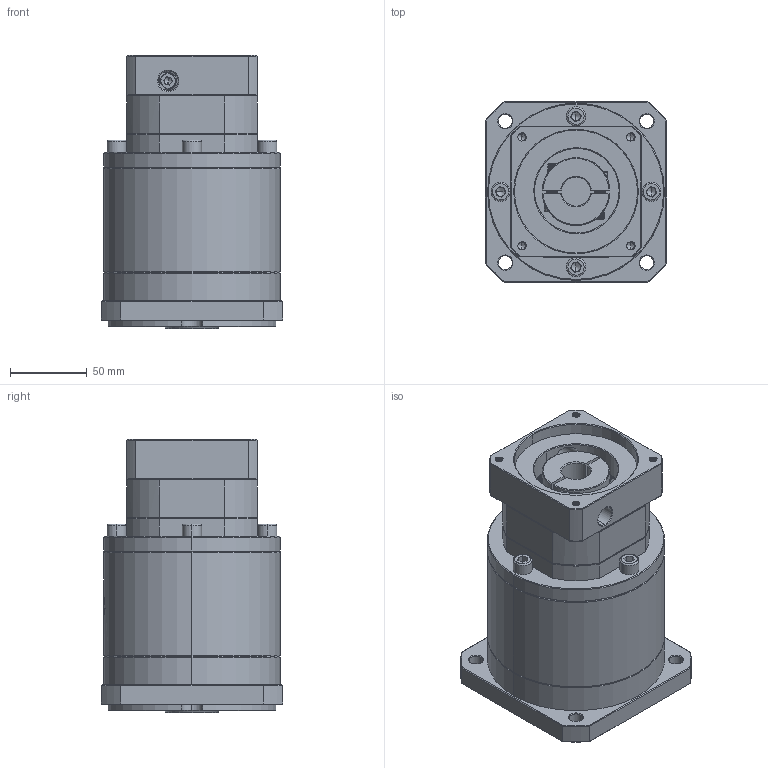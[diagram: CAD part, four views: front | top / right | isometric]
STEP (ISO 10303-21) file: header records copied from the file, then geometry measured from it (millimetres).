
FILE_DESCRIPTION (( 'STEP AP214' ), '1' );
FILE_NAME ('ZF120A-K25-L3-P2-19-80-100-M6.step', '2023-08-27T06:03:30', ( '' ), ( '' ), 'SwSTEP 2.0', 'SolidWorks 2016', '' );
FILE_SCHEMA (( 'AUTOMOTIVE_DESIGN' ));
Length unit declared in the file: millimetre
Products named in the file (1): ZF120A-K25-L3-P2-19-80-100-M6
Bounding box: 118 x 118 x 177.5 mm (x, y, z)
Volume: 1517644.5 mm3; surface area: 136045.6 mm2
Topology: 5 solids, 6 shells, 2156 faces, 5736 edges, 3679 vertices
Faces by surface type: plane 1057, bspline 410, cylinder 369, cone 305, torus 15
Entity records: 115689 total; most frequent: CARTESIAN_POINT 43580, ORIENTED_EDGE 11416, DIRECTION 8245, EDGE_CURVE 5708, VERTEX_POINT 3679, VECTOR 3045, LINE 3045, AXIS2_PLACEMENT_3D 2600
